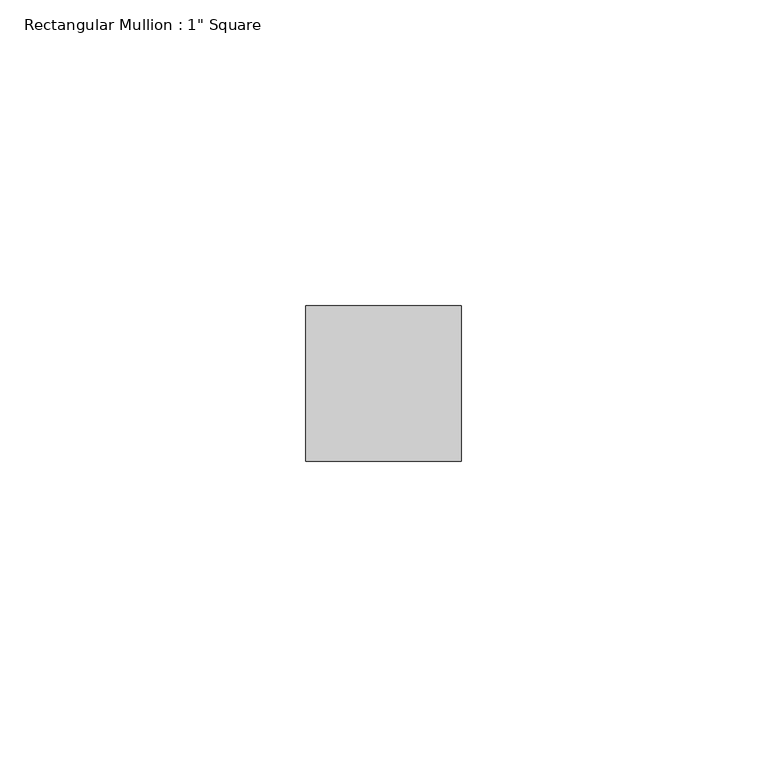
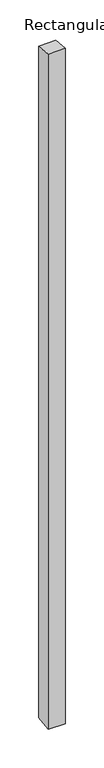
"""IFC4 building model written with IfcOpenShell, lengths in millimetres: member geometry."""

from ifc_helpers import new_model, si_unit, origin, place, context, project, spatial, faceted_brep, source, transform, mapped, element, save


def member_73dedc35(model_context):
    return source(origin(), model_context, "Body", "Brep", [
        faceted_brep([(-25.4, 12.7, -1.7004575), (0.0, 12.7, -1.4352568), (0.0, 12.7, -1065.3630215), (-25.4, 12.7, -1065.0975027), (-25.4, -12.7, 1.1700561), (-25.4, -12.7, -1067.9714597), (0.0, -12.7, 1.4352568), (0.0, -12.7, -1068.2369785)], [[[0, 1, 2, 3]], [[4, 0, 3, 5]], [[6, 4, 5, 7]], [[1, 6, 7, 2]], [[1, 0, 4, 6]], [[2, 7, 5, 3]]]),
    ])


if __name__ == "__main__":
    model = new_model("IFC4")
    model_context = context("Model", 3, world=origin())
    ifc_project = project(units=[si_unit("LENGTHUNIT", "METRE", prefix="MILLI")], contexts=[model_context])
    site = spatial("IfcSite", under=ifc_project)
    building = spatial("IfcBuilding", under=site)
    placement = place(None, origin())
    member_shape = member_73dedc35(model_context)
    element("IfcMember", 1, ObjectType="Rectangular Mullion : 1\" Square", at=placement, inside=building, context=model_context, shape_type="MappedRepresentation", body=[
        mapped(member_shape, transform((0.0, 0.0, 0.0), x_axis=(1.0, 0.0, 0.0), y_axis=(0.0, 1.0, 0.0), z_axis=(0.0, 0.0, 1.0))),
    ])
    save(model, "model.ifc")
